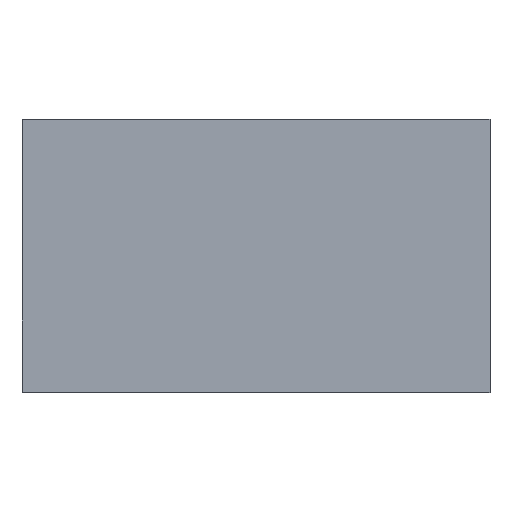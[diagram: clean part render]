
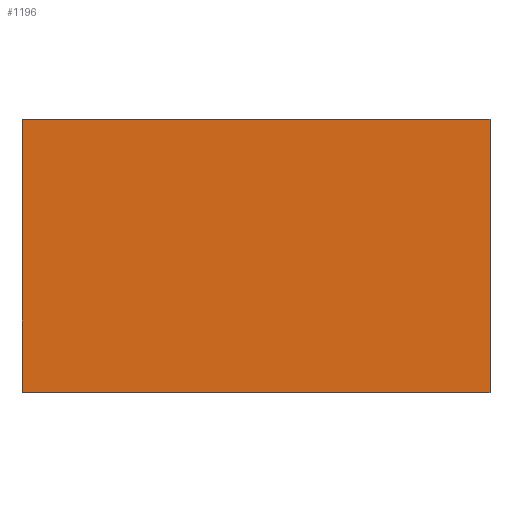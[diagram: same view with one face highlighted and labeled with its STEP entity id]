
A CAD part, top view. The second image highlights one B-rep face of the part: STEP entity #1196.
In plain terms, the highlighted planar face has unit normal (0, 0, 1).
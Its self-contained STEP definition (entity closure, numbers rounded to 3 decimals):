
#116 = LINE ( 'NONE', #531, #227 ) ;
#118 = CARTESIAN_POINT ( 'NONE',  ( 0., -17.5, 17.5 ) ) ;
#149 = CARTESIAN_POINT ( 'NONE',  ( 0., 17.5, 17.5 ) ) ;
#164 = DIRECTION ( 'NONE',  ( -1., 0., 0. ) ) ;
#227 = VECTOR ( 'NONE', #1472, 1000. ) ;
#280 = CARTESIAN_POINT ( 'NONE',  ( 60., 17.5, 17.5 ) ) ;
#355 = CARTESIAN_POINT ( 'NONE',  ( 60., -17.5, 17.5 ) ) ;
#386 = FACE_OUTER_BOUND ( 'NONE', #858, .T. ) ;
#477 = ORIENTED_EDGE ( 'NONE', *, *, #1285, .F. ) ;
#481 = CARTESIAN_POINT ( 'NONE',  ( 0., -17.5, 17.5 ) ) ;
#482 = VECTOR ( 'NONE', #1286, 1000. ) ;
#502 = VECTOR ( 'NONE', #972, 1000. ) ;
#515 = DIRECTION ( 'NONE',  ( 0., 0., -1. ) ) ;
#531 = CARTESIAN_POINT ( 'NONE',  ( 60., 17.5, 17.5 ) ) ;
#552 = VERTEX_POINT ( 'NONE', #481 ) ;
#688 = VERTEX_POINT ( 'NONE', #1209 ) ;
#747 = LINE ( 'NONE', #118, #482 ) ;
#788 = CARTESIAN_POINT ( 'NONE',  ( 60., -17.5, 17.5 ) ) ;
#858 = EDGE_LOOP ( 'NONE', ( #1307, #1032, #477, #1444 ) ) ;
#972 = DIRECTION ( 'NONE',  ( 0., -1., 0. ) ) ;
#999 = CARTESIAN_POINT ( 'NONE',  ( 60., -17.5, 17.5 ) ) ;
#1032 = ORIENTED_EDGE ( 'NONE', *, *, #1078, .F. ) ;
#1078 = EDGE_CURVE ( 'NONE', #688, #552, #1098, .T. ) ;
#1098 = LINE ( 'NONE', #788, #1351 ) ;
#1180 = PLANE ( 'NONE',  #1203 ) ;
#1196 = ADVANCED_FACE ( 'NONE', ( #386 ), #1180, .F. ) ;
#1203 = AXIS2_PLACEMENT_3D ( 'NONE', #999, #515, #164 ) ;
#1209 = CARTESIAN_POINT ( 'NONE',  ( 60., -17.5, 17.5 ) ) ;
#1284 = VERTEX_POINT ( 'NONE', #280 ) ;
#1285 = EDGE_CURVE ( 'NONE', #1284, #688, #1354, .T. ) ;
#1286 = DIRECTION ( 'NONE',  ( 0., -1., 0. ) ) ;
#1307 = ORIENTED_EDGE ( 'NONE', *, *, #1367, .T. ) ;
#1337 = VERTEX_POINT ( 'NONE', #149 ) ;
#1351 = VECTOR ( 'NONE', #1415, 1000. ) ;
#1354 = LINE ( 'NONE', #355, #502 ) ;
#1367 = EDGE_CURVE ( 'NONE', #1337, #552, #747, .T. ) ;
#1378 = EDGE_CURVE ( 'NONE', #1284, #1337, #116, .T. ) ;
#1415 = DIRECTION ( 'NONE',  ( -1., 0., 0. ) ) ;
#1444 = ORIENTED_EDGE ( 'NONE', *, *, #1378, .T. ) ;
#1472 = DIRECTION ( 'NONE',  ( -1., 0., 0. ) ) ;
